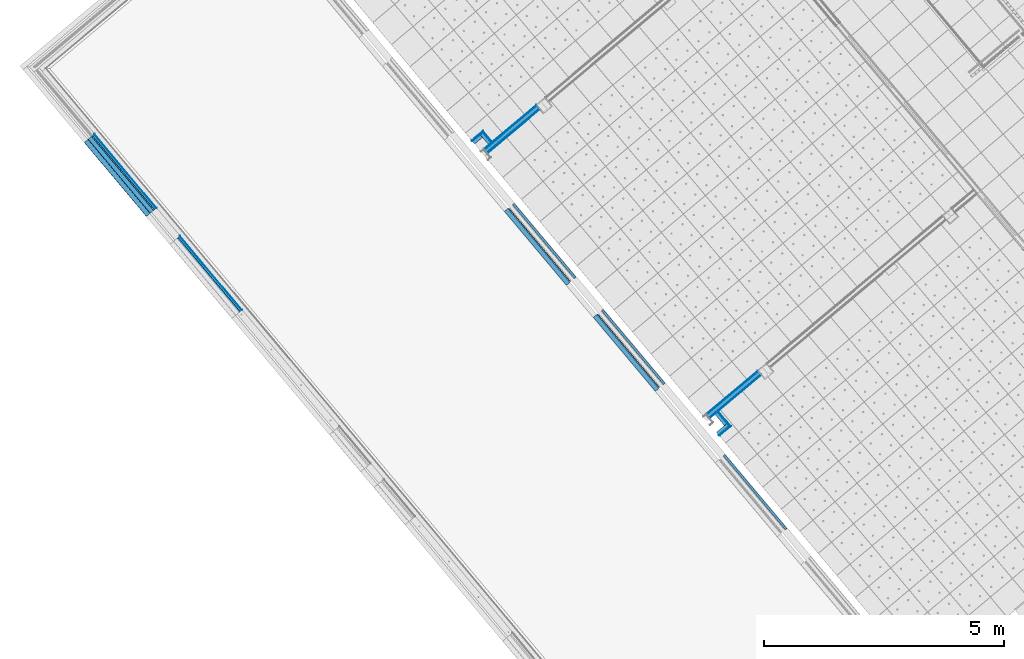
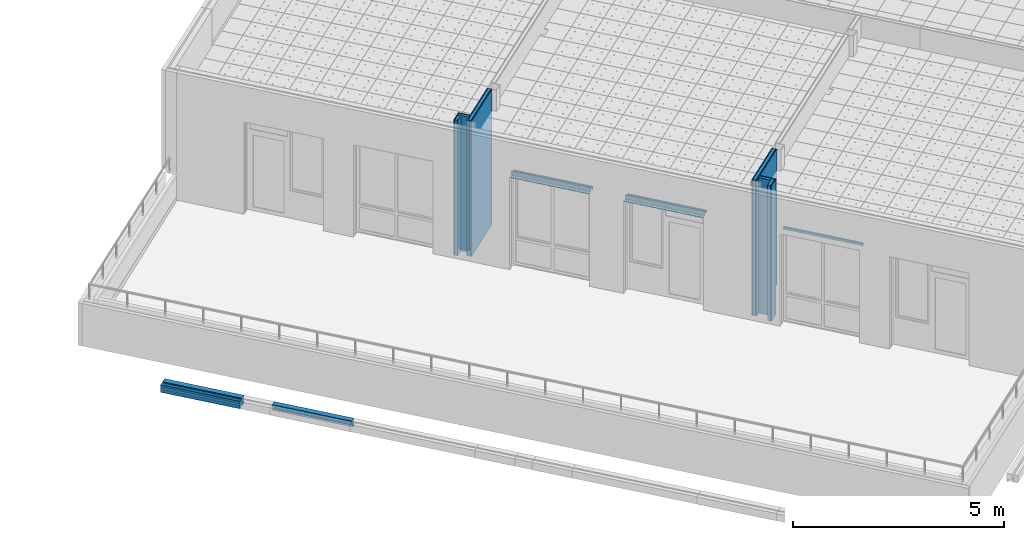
# One storey, part 49 of 321: 36 building element parts, 11 elements without a shape of their own.
"""IFC2X3 building model written with IfcOpenShell, lengths in millimetres."""

from ifc_helpers import new_model, entity, si_unit, converted_unit, derived_unit, money_unit, direction, frame, origin_with_axes, place, context, subcontext, project, spatial, faceted_brep, material, type_object, element, aggregate, save


model = new_model("IFC2X3")

# Units and contexts
model_context = context("Model", 3, precision=0.01, world=origin_with_axes(), true_north=direction((0.0, 1.0)))
plan_context = context("Plan", 3, precision=0.01, world=origin_with_axes(), true_north=direction((0.0, 1.0)))
body_context = subcontext(model_context, "Body", "Model", "MODEL_VIEW")
ifc_project = project(units=[si_unit("LENGTHUNIT", "METRE", prefix="MILLI"), si_unit("AREAUNIT", "SQUARE_METRE"), si_unit("VOLUMEUNIT", "CUBIC_METRE"), converted_unit("PLANEANGLEUNIT", "DEGREE", entity("IfcPlaneAngleMeasure", 0.0174532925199), si_unit("PLANEANGLEUNIT", "RADIAN"), dimensions=[0, 0, 0, 0, 0, 0, 0]), money_unit("EUR"), converted_unit("TIMEUNIT", "Year", entity("IfcTimeMeasure", 31556926.0), si_unit("TIMEUNIT", "SECOND"), dimensions=[0, 0, 1, 0, 0, 0, 0]), si_unit("MASSUNIT", "GRAM", prefix="KILO"), si_unit("THERMODYNAMICTEMPERATUREUNIT", "DEGREE_CELSIUS"), si_unit("LUMINOUSINTENSITYUNIT", "LUMEN"), si_unit("ENERGYUNIT", "JOULE", prefix="MEGA"), derived_unit("THERMALCONDUCTANCEUNIT", [(si_unit("POWERUNIT", "WATT"), 1), (si_unit("LENGTHUNIT", "METRE"), -1), (si_unit("THERMODYNAMICTEMPERATUREUNIT", "KELVIN"), -1)]), derived_unit("SPECIFICHEATCAPACITYUNIT", [(si_unit("ENERGYUNIT", "JOULE"), 1), (si_unit("MASSUNIT", "GRAM", prefix="KILO"), -1), (si_unit("THERMODYNAMICTEMPERATUREUNIT", "KELVIN"), -1)]), derived_unit("MASSDENSITYUNIT", [(si_unit("MASSUNIT", "GRAM", prefix="KILO"), 1), (si_unit("VOLUMEUNIT", "CUBIC_METRE"), -1)])], contexts=[model_context, plan_context])

# Site, building, storey
site_placement = place(None, origin_with_axes())
site = spatial("IfcSite", under=ifc_project, at=site_placement, Name="Fortuinstraat Woensdrecht", CompositionType="ELEMENT")
building_placement = place(site_placement, origin_with_axes())
building = spatial("IfcBuilding", under=site, at=building_placement, Name="IKC Fortuna", CompositionType="ELEMENT")
storey_placement = place(building_placement, frame((0.0, 0.0, 4000.0), z_axis=(0.0, 0.0, 1.0), x_axis=(1.0, 0.0, 0.0)))
storey = spatial("IfcBuildingStorey", under=building, at=storey_placement, Name="01 eerste verdieping", CompositionType="ELEMENT", Elevation=4000.0)

# Covering, building element parts
covering_type_1 = type_object("IfcCoveringType", Name="41 Latei MW rollaag 280 x 227", PredefinedType="NOTDEFINED")
covering_1_placement = place(storey_placement, frame((4122.29627621, -5130.56273267, 237.5), z_axis=(0.0, 0.0, 1.0), x_axis=(-0.642787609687, 0.766044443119, 0.0)))
covering_1 = element("IfcCovering", 1, at=covering_1_placement, inside=storey, type_object=covering_type_1, Name="41_Afwerking_Latei + rollaag", PredefinedType="NOTDEFINED")
ifc_material_1 = material(Name="ALG - ISOLATIE")
building_element_part_1_placement = place(covering_1_placement, origin_with_axes())
building_element_part_1 = element("IfcBuildingElementPart", 2, at=building_element_part_1_placement, material=ifc_material_1, Name="ALG - ISOLATIE", context=body_context, shape_type="Brep", body=[
    faceted_brep([(0.0, -140.0, 53.0), (2010.0, -140.0, 53.0), (2010.0, -140.0, 210.0), (0.0, -140.0, 210.0), (0.0, -83.9999988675, 53.0000013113), (2010.0, -83.9999988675, 53.0000013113), (2010.0, 0.0, 53.0), (2010.0, 0.0, 210.0), (0.0, 0.0, 210.0), (0.0, 0.0, 53.0)], [[[0, 1, 2, 3]], [[4, 5, 1, 0]], [[2, 1, 5, 6, 7]], [[3, 2, 7, 8]], [[4, 0, 3, 8, 9]], [[9, 6, 5, 4]], [[8, 7, 6, 9]]]),
])
ifc_material_2 = material(Name="Hout AFW")
building_element_part_2_placement = place(covering_1_placement, origin_with_axes())
building_element_part_2 = element("IfcBuildingElementPart", 3, at=building_element_part_2_placement, material=ifc_material_2, Name="Hout AFW", context=body_context, shape_type="Brep", body=[
    faceted_brep([(0.0, -127.999998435, 53.0000013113), (2010.0, -127.999998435, 53.0000013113), (2010.0, -83.9999988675, 53.0000013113), (0.0, -83.9999988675, 53.0000013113), (0.0, -127.999998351, -1.28576260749e-07), (2010.0, -127.999998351, -1.28576260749e-07), (2010.0, -127.999998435, -17.0), (2010.0, -83.9999988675, -17.0), (0.0, -83.9999988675, -17.0), (0.0, -127.999998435, -17.0)], [[[0, 1, 2, 3]], [[4, 5, 1, 0]], [[2, 1, 5, 6, 7]], [[3, 2, 7, 8]], [[4, 0, 3, 8, 9]], [[9, 6, 5, 4]], [[8, 7, 6, 9]]]),
])
ifc_material_3 = material(Name="Isolatie - PUR gespoten")
building_element_part_3_placement = place(covering_1_placement, origin_with_axes())
building_element_part_3 = element("IfcBuildingElementPart", 4, at=building_element_part_3_placement, material=ifc_material_3, Name="Isolatie - PUR gespoten", context=body_context, shape_type="Brep", body=[
    faceted_brep([(0.0, -139.999999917, 53.0000002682), (2010.0, -139.999999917, 53.0000002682), (2010.0, -127.999998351, 53.0000013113), (0.0, -127.999998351, 53.0000013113), (0.0, -139.999999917, -1.28576260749e-07), (2010.0, -139.999999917, -1.28576260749e-07), (2010.0, -127.999998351, -1.28576260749e-07), (0.0, -127.999998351, -1.28576260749e-07)], [[[0, 1, 2, 3]], [[4, 5, 1, 0]], [[2, 1, 5, 6]], [[3, 2, 6, 7]], [[4, 0, 3, 7]], [[7, 6, 5, 4]]]),
])
aggregate(covering_1, [building_element_part_1, building_element_part_2, building_element_part_3])

covering_2_placement = place(storey_placement, frame((2341.77458412, -3008.61960943, 237.5), z_axis=(0.0, 0.0, 1.0), x_axis=(-0.642787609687, 0.766044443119, 0.0)))
covering_2 = element("IfcCovering", 5, at=covering_2_placement, inside=storey, type_object=covering_type_1, Name="41_Afwerking_Latei + rollaag", PredefinedType="NOTDEFINED")
ifc_material_4 = material(Name="Metaal - Staal C")
building_element_part_4_placement = place(covering_2_placement, origin_with_axes())
building_element_part_4 = element("IfcBuildingElementPart", 6, at=building_element_part_4_placement, material=ifc_material_4, Name="Metaal - Staal C", context=body_context, shape_type="Brep", body=[
    faceted_brep([(2010.0, 32.0, 2.5), (0.0, 32.0, 2.5), (0.0, 32.0, 0.0), (2010.0, 32.0, 0.0), (0.0, 36.6213203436, 2.49999999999), (2010.0, 36.6213203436, 2.49999999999), (0.0, 37.1715728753, 1.17157287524), (0.0, 40.0, 0.0), (0.0, 115.609685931, 0.0), (0.0, 136.0, -4.07767729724), (0.0, 135.215535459, -8.0), (0.0, 115.215535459, -4.0), (0.0, 36.0, -4.0), (0.0, 33.1715728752, -2.82842712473), (2010.0, 33.1715728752, -2.82842712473), (2010.0, 36.0, -4.0), (2010.0, 115.215535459, -4.0), (2010.0, 135.215535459, -8.0), (2010.0, 136.0, -4.07767729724), (2010.0, 115.609685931, 0.0), (2010.0, 40.0, 0.0), (2010.0, 37.1715728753, 1.17157287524)], [[[0, 1, 2, 3]], [[4, 1, 0, 5]], [[1, 4, 6, 7, 8, 9, 10, 11, 12, 13, 2]], [[13, 14, 3, 2]], [[5, 0, 3, 14, 15, 16, 17, 18, 19, 20, 21]], [[4, 5, 21, 6]], [[6, 21, 20, 7]], [[7, 20, 19, 8]], [[8, 19, 18, 9]], [[9, 18, 17, 10]], [[10, 17, 16, 11]], [[11, 16, 15, 12]], [[12, 15, 14, 13]]]),
    faceted_brep([(2010.0, 29.9999999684, 112.580611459), (0.0, 29.9999999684, 112.580611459), (0.0, 20.8284271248, 121.828427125), (2010.0, 20.8284271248, 121.828427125), (0.0, 29.9999999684, 107.000000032), (2010.0, 29.9999999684, 107.000000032), (0.0, 18.0000000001, 119.0), (2010.0, 18.0000000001, 119.0)], [[[0, 1, 2, 3]], [[4, 1, 0, 5]], [[1, 4, 6, 2]], [[6, 7, 3, 2]], [[5, 0, 3, 7]], [[4, 5, 7, 6]]]),
])
ifc_material_5 = material(Name="Steen - Baksteen Accent Rollaag")
building_element_part_5_placement = place(covering_2_placement, origin_with_axes())
building_element_part_5 = element("IfcBuildingElementPart", 7, at=building_element_part_5_placement, material=ifc_material_5, Name="Steen - Baksteen Accent Rollaag", context=body_context, shape_type="Brep", body=[
    faceted_brep([(0.0, 51.9999999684, 12.5), (0.0, 43.5147185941, 16.0147186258), (0.0, 39.9999999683, 24.5), (0.0, 40.0, 210.0), (0.0, 140.0, 210.0), (0.0, 140.0, 0.0), (0.0, 115.609685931, 0.0), (0.0, 40.0, 0.0), (0.0, 40.0, 2.49999999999), (0.0, 129.999999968, 2.49999999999), (0.0, 129.999999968, 6.49999999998), (0.0, 128.242640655, 10.7426406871), (0.0, 123.999999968, 12.5), (2010.0, 51.9999999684, 12.5), (2010.0, 43.5147185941, 16.0147186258), (2010.0, 39.9999999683, 24.5), (2010.0, 40.0, 210.0), (2010.0, 140.0, 210.0), (2010.0, 140.0, 0.0), (2010.0, 115.609685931, 0.0), (2010.0, 40.0, 0.0), (2010.0, 40.0, 2.49999999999), (2010.0, 129.999999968, 2.49999999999), (2010.0, 129.999999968, 6.49999999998), (2010.0, 128.242640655, 10.7426406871), (2010.0, 123.999999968, 12.5)], [[[0, 1, 2, 3, 4, 5, 6, 7, 8, 9, 10, 11, 12]], [[1, 0, 13, 14]], [[15, 2, 1, 14]], [[2, 15, 16, 3]], [[3, 16, 17, 4]], [[4, 17, 18, 5]], [[5, 18, 19, 6]], [[6, 19, 20, 7]], [[21, 8, 7, 20]], [[9, 8, 21, 22]], [[10, 9, 22, 23]], [[11, 10, 23, 24]], [[12, 11, 24, 25]], [[0, 12, 25, 13]], [[22, 21, 20, 19, 18, 17, 16, 15, 14, 13, 25, 24, 23]]]),
])
ifc_material_6 = material(Name="Metaal - Staal AFW")
building_element_part_6_placement = place(covering_2_placement, origin_with_axes())
building_element_part_6 = element("IfcBuildingElementPart", 8, at=building_element_part_6_placement, material=ifc_material_6, Name="Metaal - Staal AFW", context=body_context, shape_type="Brep", body=[
    faceted_brep([(2010.0, 29.9999999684, 4.0), (0.0, 29.9999999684, 4.0), (0.0, -58.0, 4.0), (2010.0, -58.0, 4.0), (0.0, 29.9999999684, 2.5), (2010.0, 29.9999999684, 2.5), (0.0, 32.0, 2.5), (0.0, 32.0, 0.0), (0.0, -58.0, 0.0), (2010.0, -58.0, 0.0), (2010.0, 32.0, 0.0), (2010.0, 32.0, 2.5)], [[[0, 1, 2, 3]], [[4, 1, 0, 5]], [[4, 6, 7, 8, 2, 1]], [[8, 9, 3, 2]], [[5, 0, 3, 9, 10, 11]], [[6, 4, 5, 11]], [[6, 11, 10, 7]], [[7, 10, 9, 8]]]),
])
building_element_part_7_placement = place(covering_2_placement, origin_with_axes())
building_element_part_7 = element("IfcBuildingElementPart", 9, at=building_element_part_7_placement, material=ifc_material_1, Name="ALG - ISOLATIE", context=body_context, shape_type="Brep", body=[
    faceted_brep([(0.0, -140.0, 53.0), (2010.0, -140.0, 53.0), (2010.0, -140.0, 210.0), (0.0, -140.0, 210.0), (0.0, -83.9999988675, 53.0000013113), (2010.0, -83.9999988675, 53.0000013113), (2010.0, 0.0, 53.0), (2010.0, 0.0, 210.0), (0.0, 0.0, 210.0), (0.0, 0.0, 53.0)], [[[0, 1, 2, 3]], [[4, 5, 1, 0]], [[2, 1, 5, 6, 7]], [[3, 2, 7, 8]], [[4, 0, 3, 8, 9]], [[9, 6, 5, 4]], [[8, 7, 6, 9]]]),
])
building_element_part_8_placement = place(covering_2_placement, origin_with_axes())
building_element_part_8 = element("IfcBuildingElementPart", 10, at=building_element_part_8_placement, material=ifc_material_2, Name="Hout AFW", context=body_context, shape_type="Brep", body=[
    faceted_brep([(0.0, -127.999998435, 53.0000013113), (2010.0, -127.999998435, 53.0000013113), (2010.0, -83.9999988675, 53.0000013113), (0.0, -83.9999988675, 53.0000013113), (0.0, -127.999998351, -1.28576260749e-07), (2010.0, -127.999998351, -1.28576260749e-07), (2010.0, -127.999998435, -17.0), (2010.0, -83.9999988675, -17.0), (0.0, -83.9999988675, -17.0), (0.0, -127.999998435, -17.0)], [[[0, 1, 2, 3]], [[4, 5, 1, 0]], [[2, 1, 5, 6, 7]], [[3, 2, 7, 8]], [[4, 0, 3, 8, 9]], [[9, 6, 5, 4]], [[8, 7, 6, 9]]]),
])
building_element_part_9_placement = place(covering_2_placement, origin_with_axes())
building_element_part_9 = element("IfcBuildingElementPart", 11, at=building_element_part_9_placement, material=ifc_material_3, Name="Isolatie - PUR gespoten", context=body_context, shape_type="Brep", body=[
    faceted_brep([(0.0, -139.999999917, 53.0000002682), (2010.0, -139.999999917, 53.0000002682), (2010.0, -127.999998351, 53.0000013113), (0.0, -127.999998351, 53.0000013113), (0.0, -139.999999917, -1.28576260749e-07), (2010.0, -139.999999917, -1.28576260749e-07), (2010.0, -127.999998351, -1.28576260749e-07), (0.0, -127.999998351, -1.28576260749e-07)], [[[0, 1, 2, 3]], [[4, 5, 1, 0]], [[2, 1, 5, 6]], [[3, 2, 6, 7]], [[4, 0, 3, 7]], [[7, 6, 5, 4]]]),
])
aggregate(covering_2, [building_element_part_4, building_element_part_5, building_element_part_6, building_element_part_7, building_element_part_8, building_element_part_9])

# Wall, building element parts
wall_type_1 = type_object("IfcWallType", Name="MS125 2.75.2A 125", PredefinedType="NOTDEFINED")
wall_1_placement = place(storey_placement, frame((13928.2176576, -7252.99261026, 1360.0), z_axis=(0.0, 0.0, 1.0), x_axis=(0.766044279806, 0.642787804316, 0.0)))
wall_1 = element("IfcWall", 12, at=wall_1_placement, inside=storey, type_object=wall_type_1, Name="22_Wand_Binnenwand")
ifc_material_7 = material(Name="Gipsplaat")
building_element_part_10_placement = place(wall_1_placement, origin_with_axes())
building_element_part_10 = element("IfcBuildingElementPart", 13, at=building_element_part_10_placement, material=ifc_material_7, Name="Gipsplaat", context=body_context, shape_type="Brep", body=[
    faceted_brep([(1396.30360146, 62.5, 0.0), (1396.30360146, 50.0, 0.0), (0.0, 50.0, 0.0), (0.0, 62.5, 0.0), (1396.30360146, 62.5, 3930.0), (1396.30360146, 50.0, 3930.0), (0.0, 50.0, 3930.0), (0.0, 62.5, 3930.0)], [[[0, 1, 2, 3]], [[0, 4, 5, 1]], [[1, 5, 6, 2]], [[3, 2, 6, 7]], [[4, 0, 3, 7]], [[5, 4, 7, 6]]]),
])
building_element_part_11_placement = place(wall_1_placement, origin_with_axes())
building_element_part_11 = element("IfcBuildingElementPart", 14, at=building_element_part_11_placement, material=ifc_material_7, Name="Gipsplaat", context=body_context, shape_type="Brep", body=[
    faceted_brep([(1396.30360146, 50.0, 0.0), (1396.30360146, 37.5, 0.0), (0.0, 37.5, 0.0), (0.0, 50.0, 0.0), (1396.30360146, 50.0, 3930.0), (1396.30360146, 37.5, 3930.0), (0.0, 37.5, 3930.0), (0.0, 50.0, 3930.0)], [[[0, 1, 2, 3]], [[0, 4, 5, 1]], [[1, 5, 6, 2]], [[3, 2, 6, 7]], [[4, 0, 3, 7]], [[5, 4, 7, 6]]]),
])
ifc_material_8 = material(Name="Isolatie - Steenwol LSW")
building_element_part_12_placement = place(wall_1_placement, origin_with_axes())
building_element_part_12 = element("IfcBuildingElementPart", 15, at=building_element_part_12_placement, material=ifc_material_8, Name="Isolatie - Steenwol LSW", context=body_context, shape_type="Brep", body=[
    faceted_brep([(1396.30360146, 37.5, 0.0), (1396.30360146, -37.5, 0.0), (0.0, -37.5, 0.0), (0.0, 37.5, 0.0), (1396.30360146, 37.5, 3930.0), (1396.30360146, -37.5, 3930.0), (0.0, -37.5, 3930.0), (0.0, 37.5, 3930.0)], [[[0, 1, 2, 3]], [[0, 4, 5, 1]], [[1, 5, 6, 2]], [[3, 2, 6, 7]], [[4, 0, 3, 7]], [[5, 4, 7, 6]]]),
])
building_element_part_13_placement = place(wall_1_placement, origin_with_axes())
building_element_part_13 = element("IfcBuildingElementPart", 16, at=building_element_part_13_placement, material=ifc_material_7, Name="Gipsplaat", context=body_context, shape_type="Brep", body=[
    faceted_brep([(1396.30360146, -37.5, 0.0), (1396.30360146, -50.0, 0.0), (0.0, -50.0, 0.0), (0.0, -37.5, 0.0), (1396.30360146, -37.5, 3930.0), (1396.30360146, -50.0, 3930.0), (0.0, -50.0, 3930.0), (0.0, -37.5, 3930.0)], [[[0, 1, 2, 3]], [[0, 4, 5, 1]], [[1, 5, 6, 2]], [[3, 2, 6, 7]], [[4, 0, 3, 7]], [[5, 4, 7, 6]]]),
])
building_element_part_14_placement = place(wall_1_placement, origin_with_axes())
building_element_part_14 = element("IfcBuildingElementPart", 17, at=building_element_part_14_placement, material=ifc_material_7, Name="Gipsplaat", context=body_context, shape_type="Brep", body=[
    faceted_brep([(1396.30360146, -50.0, 0.0), (1396.30360146, -62.5, 0.0), (0.0, -62.5, 0.0), (0.0, -50.0, 0.0), (1396.30360146, -50.0, 3930.0), (1396.30360146, -62.5, 3930.0), (0.0, -62.5, 3930.0), (0.0, -50.0, 3930.0)], [[[0, 1, 2, 3]], [[0, 4, 5, 1]], [[1, 5, 6, 2]], [[3, 2, 6, 7]], [[4, 0, 3, 7]], [[5, 4, 7, 6]]]),
])
aggregate(wall_1, [building_element_part_10, building_element_part_11, building_element_part_12, building_element_part_13, building_element_part_14])

wall_2_placement = place(storey_placement, frame((9300.14684462, -1737.47266084, 1360.0), z_axis=(0.0, 0.0, 1.0), x_axis=(0.766044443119, 0.642787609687, 0.0)))
wall_2 = element("IfcWall", 18, at=wall_2_placement, inside=storey, type_object=wall_type_1, Name="22_Wand_Binnenwand")
building_element_part_15_placement = place(wall_2_placement, origin_with_axes())
building_element_part_15 = element("IfcBuildingElementPart", 19, at=building_element_part_15_placement, material=ifc_material_7, Name="Gipsplaat", context=body_context, shape_type="Brep", body=[
    faceted_brep([(1420.34967573, 62.5, 0.0), (1420.34967573, 50.0, 0.0), (0.0, 50.0, 0.0), (0.0, 62.5, 0.0), (1420.34967573, 62.5, 3930.0), (1420.34967573, 50.0, 3930.0), (0.0, 50.0, 3930.0), (0.0, 62.5, 3930.0)], [[[0, 1, 2, 3]], [[0, 4, 5, 1]], [[1, 5, 6, 2]], [[3, 2, 6, 7]], [[4, 0, 3, 7]], [[5, 4, 7, 6]]]),
])
building_element_part_16_placement = place(wall_2_placement, origin_with_axes())
building_element_part_16 = element("IfcBuildingElementPart", 20, at=building_element_part_16_placement, material=ifc_material_7, Name="Gipsplaat", context=body_context, shape_type="Brep", body=[
    faceted_brep([(1420.34967573, 50.0, 0.0), (1420.34967573, 37.5, 0.0), (0.0, 37.5, 0.0), (0.0, 50.0, 0.0), (1420.34967573, 50.0, 3930.0), (1420.34967573, 37.5, 3930.0), (0.0, 37.5, 3930.0), (0.0, 50.0, 3930.0)], [[[0, 1, 2, 3]], [[0, 4, 5, 1]], [[1, 5, 6, 2]], [[3, 2, 6, 7]], [[4, 0, 3, 7]], [[5, 4, 7, 6]]]),
])
building_element_part_17_placement = place(wall_2_placement, origin_with_axes())
building_element_part_17 = element("IfcBuildingElementPart", 21, at=building_element_part_17_placement, material=ifc_material_8, Name="Isolatie - Steenwol LSW", context=body_context, shape_type="Brep", body=[
    faceted_brep([(1420.34967573, 37.5, 0.0), (1420.34967573, -37.5, 0.0), (0.0, -37.5, 0.0), (0.0, 37.5, 0.0), (1420.34967573, 37.5, 3930.0), (1420.34967573, -37.5, 3930.0), (0.0, -37.5, 3930.0), (0.0, 37.5, 3930.0)], [[[0, 1, 2, 3]], [[0, 4, 5, 1]], [[1, 5, 6, 2]], [[3, 2, 6, 7]], [[4, 0, 3, 7]], [[5, 4, 7, 6]]]),
])
building_element_part_18_placement = place(wall_2_placement, origin_with_axes())
building_element_part_18 = element("IfcBuildingElementPart", 22, at=building_element_part_18_placement, material=ifc_material_7, Name="Gipsplaat", context=body_context, shape_type="Brep", body=[
    faceted_brep([(1420.34967573, -37.5, 0.0), (1420.34967573, -50.0, 0.0), (0.0, -50.0, 0.0), (0.0, -37.5, 0.0), (1420.34967573, -37.5, 3930.0), (1420.34967573, -50.0, 3930.0), (0.0, -50.0, 3930.0), (0.0, -37.5, 3930.0)], [[[0, 1, 2, 3]], [[0, 4, 5, 1]], [[1, 5, 6, 2]], [[3, 2, 6, 7]], [[4, 0, 3, 7]], [[5, 4, 7, 6]]]),
])
building_element_part_19_placement = place(wall_2_placement, origin_with_axes())
building_element_part_19 = element("IfcBuildingElementPart", 23, at=building_element_part_19_placement, material=ifc_material_7, Name="Gipsplaat", context=body_context, shape_type="Brep", body=[
    faceted_brep([(1420.34967573, -50.0, 0.0), (1420.34967573, -62.5, 0.0), (0.0, -62.5, 0.0), (0.0, -50.0, 0.0), (1420.34967573, -50.0, 3930.0), (1420.34967573, -62.5, 3930.0), (0.0, -62.5, 3930.0), (0.0, -50.0, 3930.0)], [[[0, 1, 2, 3]], [[0, 4, 5, 1]], [[1, 5, 6, 2]], [[3, 2, 6, 7]], [[4, 0, 3, 7]], [[5, 4, 7, 6]]]),
])
aggregate(wall_2, [building_element_part_15, building_element_part_16, building_element_part_17, building_element_part_18, building_element_part_19])

# Covering, building element parts
covering_type_2 = type_object("IfcCoveringType", Name="41 Latei MW zw 269 x 142", PredefinedType="NOTDEFINED")
covering_3_placement = place(storey_placement, frame((9792.56809257, -2903.82442307, 4272.5), z_axis=(0.0, 0.0, 1.0), x_axis=(0.642787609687, -0.766044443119, 0.0)))
covering_3 = element("IfcCovering", 24, at=covering_3_placement, inside=storey, type_object=covering_type_2, Name="41_Afwerking_MW latei", PredefinedType="NOTDEFINED")
building_element_part_20_placement = place(covering_3_placement, origin_with_axes())
building_element_part_20 = element("IfcBuildingElementPart", 25, at=building_element_part_20_placement, material=ifc_material_2, Name="Hout AFW", context=body_context, shape_type="Brep", body=[
    faceted_brep([(0.0, 129.0, -17.0), (2010.0, 129.0, -17.0), (2010.0, 83.0, -17.0), (0.0, 83.0, -17.0), (0.0, 129.0, 53.0), (2010.0, 129.0, 53.0), (2010.0, 83.0, 53.0), (0.0, 83.0, 53.0)], [[[0, 1, 2, 3]], [[4, 5, 1, 0]], [[2, 1, 5, 6]], [[3, 2, 6, 7]], [[4, 0, 3, 7]], [[7, 6, 5, 4]]]),
])
building_element_part_21_placement = place(covering_3_placement, origin_with_axes())
building_element_part_21 = element("IfcBuildingElementPart", 26, at=building_element_part_21_placement, material=ifc_material_6, Name="Metaal - Staal AFW", context=body_context, shape_type="Brep", body=[
    faceted_brep([(2010.0, -43.3863648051, -3.9999998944), (2010.0, -43.3863648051, 0.0), (2010.0, -115.609685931, 0.0), (2010.0, -136.000000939, -4.07767792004), (2010.0, -135.215535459, -8.0), (2010.0, -115.215535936, -3.99999886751), (0.0, -43.3863648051, 0.0), (0.0, -43.3863648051, -3.9999998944), (0.0, -115.609685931, 0.0), (0.0, -136.000000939, -4.07767792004), (0.0, -135.215535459, -8.0), (0.0, -115.215535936, -3.99999886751)], [[[0, 1, 2, 3, 4, 5]], [[6, 1, 0, 7]], [[1, 6, 8, 2]], [[9, 3, 2, 8]], [[10, 4, 3, 9]], [[11, 5, 4, 10]], [[7, 0, 5, 11]], [[6, 7, 11, 10, 9, 8]]]),
    faceted_brep([(0.0, -33.3863648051, 109.166095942), (2010.0, -33.3863648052, 109.166095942), (2010.0, -20.8284271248, 121.828427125), (0.0, -20.8284271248, 121.828427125), (2010.0, -33.3863648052, -2.91739685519), (0.0, -33.3863648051, -2.91739685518), (2010.0, -33.1715728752, -2.82842712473), (2010.0, -32.0, 0.0), (2010.0, -32.0, 105.0), (2010.0, -18.0000000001, 119.0), (0.0, -18.0000000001, 119.0), (0.0, -32.0, 105.0), (0.0, -32.0, 0.0), (0.0, -33.1715728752, -2.82842712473)], [[[0, 1, 2, 3]], [[4, 1, 0, 5]], [[1, 4, 6, 7, 8, 9, 2]], [[3, 2, 9, 10]], [[5, 0, 3, 10, 11, 12, 13]], [[4, 5, 13, 6]], [[12, 7, 6, 13]], [[11, 8, 7, 12]], [[10, 9, 8, 11]]]),
])
aggregate(covering_3, [building_element_part_20, building_element_part_21])

covering_4_placement = place(storey_placement, frame((11643.7964085, -5110.03241924, 4272.5), z_axis=(0.0, 0.0, 1.0), x_axis=(0.642787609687, -0.766044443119, 0.0)))
covering_4 = element("IfcCovering", 27, at=covering_4_placement, inside=storey, type_object=covering_type_2, Name="41_Afwerking_MW latei", PredefinedType="NOTDEFINED")
building_element_part_22_placement = place(covering_4_placement, origin_with_axes())
building_element_part_22 = element("IfcBuildingElementPart", 28, at=building_element_part_22_placement, material=ifc_material_2, Name="Hout AFW", context=body_context, shape_type="Brep", body=[
    faceted_brep([(0.0, 129.0, -17.0), (2010.0, 129.0, -17.0), (2010.0, 83.0, -17.0), (0.0, 83.0, -17.0), (0.0, 129.0, 53.0), (2010.0, 129.0, 53.0), (2010.0, 83.0, 53.0), (0.0, 83.0, 53.0)], [[[0, 1, 2, 3]], [[4, 5, 1, 0]], [[2, 1, 5, 6]], [[3, 2, 6, 7]], [[4, 0, 3, 7]], [[7, 6, 5, 4]]]),
])
building_element_part_23_placement = place(covering_4_placement, origin_with_axes())
building_element_part_23 = element("IfcBuildingElementPart", 29, at=building_element_part_23_placement, material=ifc_material_6, Name="Metaal - Staal AFW", context=body_context, shape_type="Brep", body=[
    faceted_brep([(2010.0, -43.3863648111, -3.9999998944), (2010.0, -43.3863648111, 0.0), (2010.0, -115.609685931, 0.0), (2010.0, -136.000000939, -4.07767792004), (2010.0, -135.215535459, -8.0), (2010.0, -115.215535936, -3.99999886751), (0.0, -43.3863648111, 0.0), (0.0, -43.386364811, -3.9999998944), (0.0, -115.609685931, 0.0), (0.0, -136.000000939, -4.07767792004), (0.0, -135.215535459, -8.0), (0.0, -115.215535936, -3.99999886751)], [[[0, 1, 2, 3, 4, 5]], [[6, 1, 0, 7]], [[1, 6, 8, 2]], [[9, 3, 2, 8]], [[10, 4, 3, 9]], [[11, 5, 4, 10]], [[7, 0, 5, 11]], [[6, 7, 11, 10, 9, 8]]]),
    faceted_brep([(0.0, -33.3863648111, 109.166095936), (2010.0, -33.3863648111, 109.166095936), (2010.0, -20.8284271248, 121.828427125), (0.0, -20.8284271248, 121.828427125), (2010.0, -33.3863648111, -2.91739685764), (0.0, -33.3863648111, -2.91739685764), (2010.0, -33.1715728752, -2.82842712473), (2010.0, -32.0, 0.0), (2010.0, -32.0, 105.0), (2010.0, -18.0000000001, 119.0), (0.0, -18.0000000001, 119.0), (0.0, -32.0, 105.0), (0.0, -32.0, 0.0), (0.0, -33.1715728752, -2.82842712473)], [[[0, 1, 2, 3]], [[4, 1, 0, 5]], [[1, 4, 6, 7, 8, 9, 2]], [[3, 2, 9, 10]], [[5, 0, 3, 10, 11, 12, 13]], [[4, 5, 13, 6]], [[12, 7, 6, 13]], [[11, 8, 7, 12]], [[10, 9, 8, 11]]]),
])
aggregate(covering_4, [building_element_part_22, building_element_part_23])

# Covering, building element part
covering_5_placement = place(storey_placement, frame((14182.1646526, -8135.14189353, 4272.5), z_axis=(0.0, 0.0, 1.0), x_axis=(0.642787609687, -0.766044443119, 0.0)))
covering_5 = element("IfcCovering", 30, at=covering_5_placement, inside=storey, type_object=covering_type_2, Name="41_Afwerking_MW latei", PredefinedType="NOTDEFINED")
building_element_part_24_placement = place(covering_5_placement, origin_with_axes())
building_element_part_24 = element("IfcBuildingElementPart", 31, at=building_element_part_24_placement, material=ifc_material_2, Name="Hout AFW", context=body_context, shape_type="Brep", body=[
    faceted_brep([(0.0, 129.0, -17.0), (2010.0, 129.0, -17.0), (2010.0, 83.0, -17.0), (0.0, 83.0, -17.0), (0.0, 129.0, 53.0), (2010.0, 129.0, 53.0), (2010.0, 83.0, 53.0), (0.0, 83.0, 53.0)], [[[0, 1, 2, 3]], [[4, 5, 1, 0]], [[2, 1, 5, 6]], [[3, 2, 6, 7]], [[4, 0, 3, 7]], [[7, 6, 5, 4]]]),
])
aggregate(covering_5, [building_element_part_24])

# Wall, building element parts
wall_type_2 = type_object("IfcWallType", Name="MS100 75.2A 100", PredefinedType="NOTDEFINED")
wall_3_placement = place(storey_placement, frame((14166.8082936, -7665.68108167, 1360.0), z_axis=(0.0, 0.0, 1.0), x_axis=(0.766044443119, 0.642787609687, 0.0)))
wall_3 = element("IfcWall", 32, at=wall_3_placement, inside=storey, type_object=wall_type_2, Name="22_Wand_Binnenwand")
building_element_part_25_placement = place(wall_3_placement, origin_with_axes())
building_element_part_25 = element("IfcBuildingElementPart", 33, at=building_element_part_25_placement, material=ifc_material_8, Name="Isolatie - Steenwol LSW", context=body_context, shape_type="Brep", body=[
    faceted_brep([(289.001635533, 25.0, 0.0), (0.0, 25.0, 0.0), (0.0, 100.0, 0.0), (289.001609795, 100.0, 0.0), (289.001635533, 25.0, 3930.0), (0.0, 25.0, 3930.0), (0.0, 100.0, 3930.0), (289.001609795, 100.0, 3930.0)], [[[0, 1, 2, 3]], [[4, 5, 1, 0]], [[2, 1, 5, 6]], [[3, 2, 6, 7]], [[3, 7, 4, 0]], [[7, 6, 5, 4]]]),
])
building_element_part_26_placement = place(wall_3_placement, origin_with_axes())
building_element_part_26 = element("IfcBuildingElementPart", 34, at=building_element_part_26_placement, material=ifc_material_7, Name="Gipsplaat", context=body_context, shape_type="Brep", body=[
    faceted_brep([(301.501639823, 12.5, 0.0), (0.0, 12.5, 0.0), (0.0, 25.0, 0.0), (301.501635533, 25.0, 0.0), (301.501639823, 12.5, 3930.0), (0.0, 12.5, 3930.0), (0.0, 25.0, 3930.0), (301.501635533, 25.0, 3930.0)], [[[0, 1, 2, 3]], [[4, 5, 1, 0]], [[2, 1, 5, 6]], [[3, 2, 6, 7]], [[3, 7, 4, 0]], [[7, 6, 5, 4]]]),
])
building_element_part_27_placement = place(wall_3_placement, origin_with_axes())
building_element_part_27 = element("IfcBuildingElementPart", 35, at=building_element_part_27_placement, material=ifc_material_7, Name="Gipsplaat", context=body_context, shape_type="Brep", body=[
    faceted_brep([(314.001644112, 0.0, 0.0), (0.0, 0.0, 0.0), (0.0, 12.5, 0.0), (314.001639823, 12.5, 0.0), (314.001644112, 0.0, 3930.0), (0.0, 0.0, 3930.0), (0.0, 12.5, 3930.0), (314.001639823, 12.5, 3930.0)], [[[0, 1, 2, 3]], [[4, 5, 1, 0]], [[2, 1, 5, 6]], [[3, 2, 6, 7]], [[3, 7, 4, 0]], [[7, 6, 5, 4]]]),
])
aggregate(wall_3, [building_element_part_25, building_element_part_26, building_element_part_27])

wall_4_placement = place(storey_placement, frame((14407.3475082, -7463.84471541, 1360.0), z_axis=(0.0, 0.0, 1.0), x_axis=(-0.642787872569, 0.766044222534, 0.0)))
wall_4 = element("IfcWall", 36, at=wall_4_placement, inside=storey, type_object=wall_type_2, Name="22_Wand_Binnenwand")
building_element_part_28_placement = place(wall_4_placement, origin_with_axes())
building_element_part_28 = element("IfcBuildingElementPart", 37, at=building_element_part_28_placement, material=ifc_material_8, Name="Isolatie - Steenwol LSW", context=body_context, shape_type="Brep", body=[
    faceted_brep([(407.000875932, 25.0, 0.0), (100.000008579, 25.0, 0.0), (100.000034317, 100.0, 0.0), (407.000882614, 100.0, 0.0), (407.000875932, 25.0, 3930.0), (100.000008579, 25.0, 3930.0), (100.000034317, 100.0, 3930.0), (407.000882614, 100.0, 3930.0)], [[[0, 1, 2, 3]], [[4, 5, 1, 0]], [[2, 1, 5, 6]], [[3, 2, 6, 7]], [[3, 7, 4, 0]], [[7, 6, 5, 4]]]),
])
building_element_part_29_placement = place(wall_4_placement, origin_with_axes())
building_element_part_29 = element("IfcBuildingElementPart", 38, at=building_element_part_29_placement, material=ifc_material_7, Name="Gipsplaat", context=body_context, shape_type="Brep", body=[
    faceted_brep([(407.000874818, 12.5, 0.0), (25.0000042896, 12.5, 0.0), (25.0000085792, 25.0, 0.0), (407.000875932, 25.0, 0.0), (407.000874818, 12.5, 3930.0), (25.0000042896, 12.5, 3930.0), (25.0000085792, 25.0, 3930.0), (407.000875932, 25.0, 3930.0)], [[[0, 1, 2, 3]], [[4, 5, 1, 0]], [[2, 1, 5, 6]], [[3, 2, 6, 7]], [[3, 7, 4, 0]], [[7, 6, 5, 4]]]),
])
building_element_part_30_placement = place(wall_4_placement, origin_with_axes())
building_element_part_30 = element("IfcBuildingElementPart", 39, at=building_element_part_30_placement, material=ifc_material_7, Name="Gipsplaat", context=body_context, shape_type="Brep", body=[
    faceted_brep([(407.000873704, 0.0, 0.0), (12.5, 0.0, 0.0), (12.5000042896, 12.5, 0.0), (407.000874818, 12.5, 0.0), (407.000873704, 0.0, 3930.0), (12.5, 0.0, 3930.0), (12.5000042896, 12.5, 3930.0), (407.000874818, 12.5, 3930.0)], [[[0, 1, 2, 3]], [[4, 5, 1, 0]], [[2, 1, 5, 6]], [[3, 2, 6, 7]], [[3, 7, 4, 0]], [[7, 6, 5, 4]]]),
])
aggregate(wall_4, [building_element_part_28, building_element_part_29, building_element_part_30])

wall_5_placement = place(storey_placement, frame((9400.88173007, -1652.94599159, 1360.0), z_axis=(0.0, 0.0, 1.0), x_axis=(-0.642787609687, 0.766044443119, 0.0)))
wall_5 = element("IfcWall", 40, at=wall_5_placement, inside=storey, type_object=wall_type_2, Name="22_Wand_Binnenwand")
building_element_part_31_placement = place(wall_5_placement, origin_with_axes())
building_element_part_31 = element("IfcBuildingElementPart", 41, at=building_element_part_31_placement, material=ifc_material_8, Name="Isolatie - Steenwol LSW", context=body_context, shape_type="Brep", body=[
    faceted_brep([(335.499151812, -75.0, 0.0), (62.4999509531, -75.0, 0.0), (62.4999509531, 0.0, 0.0), (335.499151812, 0.0, 0.0), (335.499151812, -75.0, 3930.0), (62.4999509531, -75.0, 3930.0), (62.4999509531, 0.0, 3930.0), (335.499151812, 0.0, 3930.0)], [[[0, 1, 2, 3]], [[4, 5, 1, 0]], [[2, 1, 5, 6]], [[3, 2, 6, 7]], [[3, 7, 4, 0]], [[7, 6, 5, 4]]]),
])
building_element_part_32_placement = place(wall_5_placement, origin_with_axes())
building_element_part_32 = element("IfcBuildingElementPart", 42, at=building_element_part_32_placement, material=ifc_material_7, Name="Gipsplaat", context=body_context, shape_type="Brep", body=[
    faceted_brep([(347.999151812, -87.5, 0.0), (62.4999509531, -87.5, 0.0), (62.4999509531, -75.0, 0.0), (347.999151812, -75.0, 0.0), (347.999151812, -87.5, 3930.0), (62.4999509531, -87.5, 3930.0), (62.4999509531, -75.0, 3930.0), (347.999151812, -75.0, 3930.0)], [[[0, 1, 2, 3]], [[4, 5, 1, 0]], [[2, 1, 5, 6]], [[3, 2, 6, 7]], [[3, 7, 4, 0]], [[7, 6, 5, 4]]]),
])
building_element_part_33_placement = place(wall_5_placement, origin_with_axes())
building_element_part_33 = element("IfcBuildingElementPart", 43, at=building_element_part_33_placement, material=ifc_material_7, Name="Gipsplaat", context=body_context, shape_type="Brep", body=[
    faceted_brep([(360.499151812, -100.0, 0.0), (62.4999509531, -100.0, 0.0), (62.4999509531, -87.5, 0.0), (360.499151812, -87.5, 0.0), (360.499151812, -100.0, 3930.0), (62.4999509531, -100.0, 3930.0), (62.4999509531, -87.5, 3930.0), (360.499151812, -87.5, 3930.0)], [[[0, 1, 2, 3]], [[4, 5, 1, 0]], [[2, 1, 5, 6]], [[3, 2, 6, 7]], [[3, 7, 4, 0]], [[7, 6, 5, 4]]]),
])
aggregate(wall_5, [building_element_part_31, building_element_part_32, building_element_part_33])

wall_6_placement = place(storey_placement, frame((9233.43610295, -1453.39206391, 1360.0), z_axis=(0.0, 0.0, 1.0), x_axis=(-0.766044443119, -0.642787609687, 0.0)))
wall_6 = element("IfcWall", 44, at=wall_6_placement, inside=storey, type_object=wall_type_2, Name="22_Wand_Binnenwand")
building_element_part_34_placement = place(wall_6_placement, origin_with_axes())
building_element_part_34 = element("IfcBuildingElementPart", 45, at=building_element_part_34_placement, material=ifc_material_8, Name="Isolatie - Steenwol LSW", context=body_context, shape_type="Brep", body=[
    faceted_brep([(214.000006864, 0.0, 0.0), (214.000006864, -75.0, 0.0), (0.0, -75.0, 0.0), (0.0, 0.0, 0.0), (214.000006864, 0.0, 3930.0), (214.000006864, -75.0, 3930.0), (0.0, -75.0, 3930.0), (0.0, 0.0, 3930.0)], [[[0, 1, 2, 3]], [[0, 4, 5, 1]], [[1, 5, 6, 2]], [[3, 2, 6, 7]], [[4, 0, 3, 7]], [[5, 4, 7, 6]]]),
])
building_element_part_35_placement = place(wall_6_placement, origin_with_axes())
building_element_part_35 = element("IfcBuildingElementPart", 46, at=building_element_part_35_placement, material=ifc_material_7, Name="Gipsplaat", context=body_context, shape_type="Brep", body=[
    faceted_brep([(214.000006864, -75.0, 0.0), (214.000006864, -87.5, 0.0), (-75.0, -87.5, 0.0), (-75.0, -75.0, 0.0), (214.000006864, -75.0, 3930.0), (214.000006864, -87.5, 3930.0), (-75.0, -87.5, 3930.0), (-75.0, -75.0, 3930.0)], [[[0, 1, 2, 3]], [[0, 4, 5, 1]], [[1, 5, 6, 2]], [[3, 2, 6, 7]], [[4, 0, 3, 7]], [[5, 4, 7, 6]]]),
])
building_element_part_36_placement = place(wall_6_placement, origin_with_axes())
building_element_part_36 = element("IfcBuildingElementPart", 47, at=building_element_part_36_placement, material=ifc_material_7, Name="Gipsplaat", context=body_context, shape_type="Brep", body=[
    faceted_brep([(214.000006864, -87.5, 0.0), (214.000006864, -100.0, 0.0), (-87.5, -100.0, 0.0), (-87.5, -87.5, 0.0), (214.000006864, -87.5, 3930.0), (214.000006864, -100.0, 3930.0), (-87.5, -100.0, 3930.0), (-87.5, -87.5, 3930.0)], [[[0, 1, 2, 3]], [[0, 4, 5, 1]], [[1, 5, 6, 2]], [[3, 2, 6, 7]], [[4, 0, 3, 7]], [[5, 4, 7, 6]]]),
])
aggregate(wall_6, [building_element_part_34, building_element_part_35, building_element_part_36])

save(model, "model.ifc")
